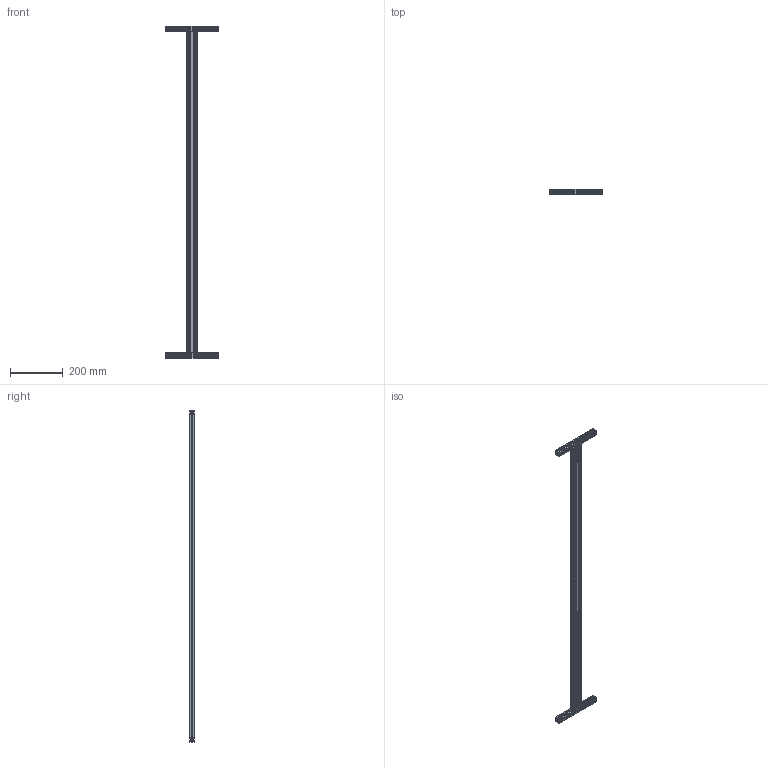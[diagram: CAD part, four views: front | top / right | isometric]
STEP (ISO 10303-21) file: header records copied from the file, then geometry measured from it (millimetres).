
FILE_DESCRIPTION (( 'STEP AP203' ), '1' );
FILE_NAME ('MainRail.STEP', '2025-03-11T00:33:59', ( '' ), ( '' ), 'SwSTEP 2.0', 'SolidWorks 2024', '' );
FILE_SCHEMA (( 'CONFIG_CONTROL_DESIGN' ));
Length unit declared in the file: millimetre
Products named in the file (1): MainRail
Bounding box: 200 x 20 x 1260 mm (x, y, z)
Volume: 473734.1 mm3; surface area: 455364.2 mm2
Topology: 3 solids, 3 shells, 258 faces, 756 edges, 504 vertices
Faces by surface type: plane 136, cylinder 122
Entity records: 8715 total; most frequent: CARTESIAN_POINT 1519, DIRECTION 1518, ORIENTED_EDGE 1512, EDGE_CURVE 756, LINE 512, VECTOR 512, VERTEX_POINT 504, AXIS2_PLACEMENT_3D 503
